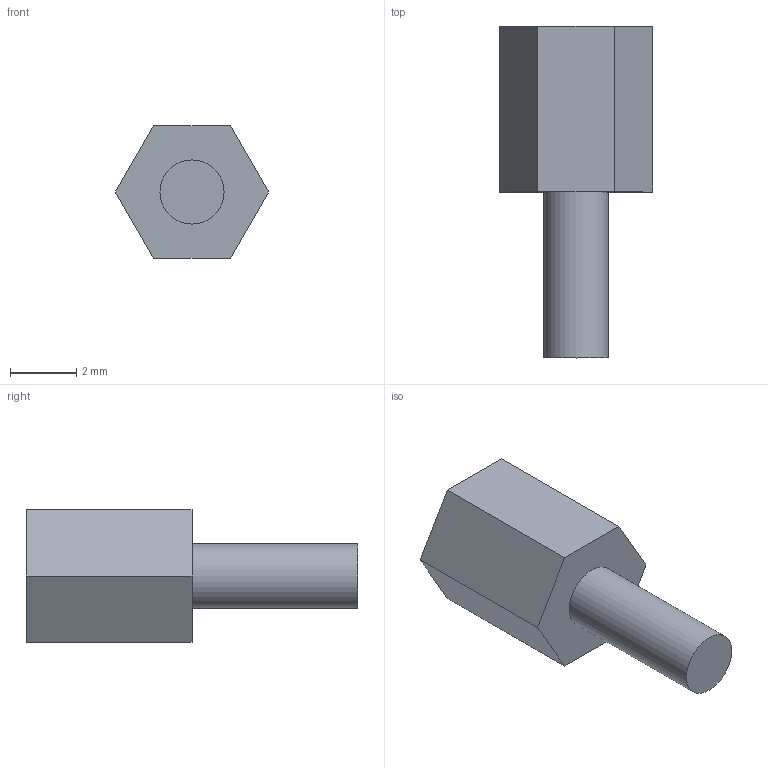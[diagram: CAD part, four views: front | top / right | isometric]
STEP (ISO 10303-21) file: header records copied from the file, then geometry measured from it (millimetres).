
FILE_DESCRIPTION(/* description */ (''),/* implementation_level */ '2;1');
FILE_NAME(/* name */ 'C:/Users/priba/Documents/Temp/mrm-spac5m2nyl.step',/* time_stamp */ '2020-04-08T14:17:06+02:00',/* author */ (''),/* organization */ (''),/* preprocessor_version */ 'ST-DEVELOPER v18',/* originating_system */ 'Autodesk Translation Framework v8.12.0.6',/* authorisation */ '');
FILE_SCHEMA (('AUTOMOTIVE_DESIGN { 1 0 10303 214 3 1 1 }'));
Length unit declared in the file: millimetre
Products named in the file (1): mrm-spac5m2nyl
Bounding box: 4.62 x 10 x 4 mm (x, y, z)
Volume: 70.8 mm3; surface area: 153 mm2
Topology: 1 solids, 1 shells, 12 faces, 28 edges, 19 vertices
Faces by surface type: plane 9, cylinder 2, cone 1
Full cylindrical faces by diameter (mm): 1.933 x1, 2 x1
Entity records: 374 total; most frequent: DIRECTION 59, CARTESIAN_POINT 59, ORIENTED_EDGE 54, EDGE_CURVE 27, LINE 21, VECTOR 21, VERTEX_POINT 19, AXIS2_PLACEMENT_3D 19
